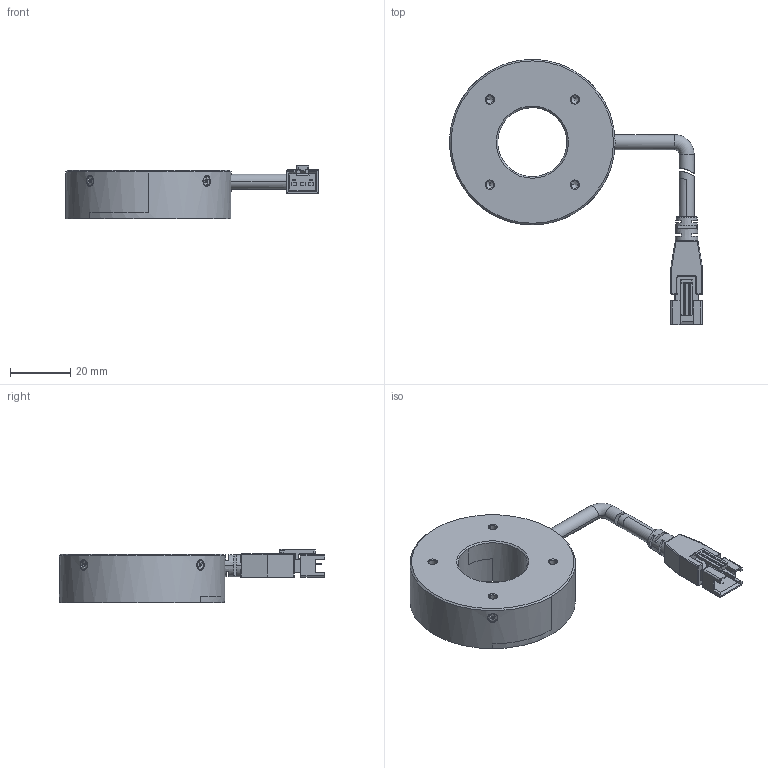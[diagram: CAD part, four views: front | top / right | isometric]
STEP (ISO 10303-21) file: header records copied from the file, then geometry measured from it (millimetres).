
FILE_DESCRIPTION((''),'2;1');
FILE_NAME('MV-LRDS-55-90-X_ASM','2023-09-15T11:57:43',('qiaoxuan5'),(''),'CREO PARAMETRIC BY PTC INC, 2020044','CREO PARAMETRIC BY PTC INC, 2020044','');
FILE_SCHEMA(('CONFIG_CONTROL_DESIGN','SHAPE_APPEARANCE_LAYERS_GROUPS'));
Length unit declared in the file: millimetre
Products named in the file (1): MV-LRDS-55-90-X_ASM
Bounding box: 84.05 x 88.16 x 17.7 mm (x, y, z)
Volume: 31872.2 mm3; surface area: 15740.5 mm2
Topology: 2 solids, 6 shells, 512 faces, 1316 edges, 817 vertices
Faces by surface type: plane 275, cylinder 151, cone 58, torus 10, sphere 8, bspline 8, extrusion 2
Entity records: 17566 total; most frequent: CARTESIAN_POINT 4245, ORIENTED_EDGE 2584, DIRECTION 2574, EDGE_CURVE 1292, AXIS2_PLACEMENT_3D 880, VERTEX_POINT 817, VECTOR 814, LINE 812
